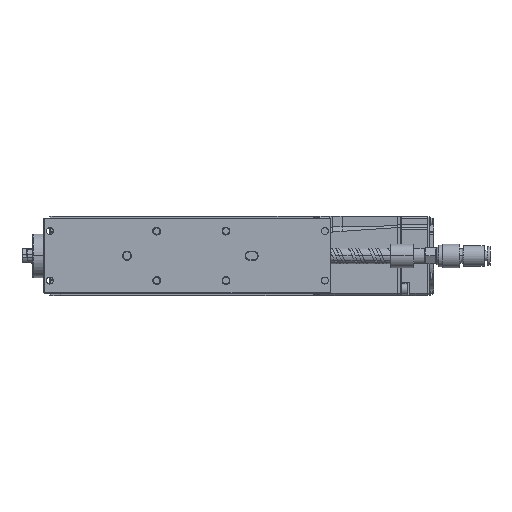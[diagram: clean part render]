
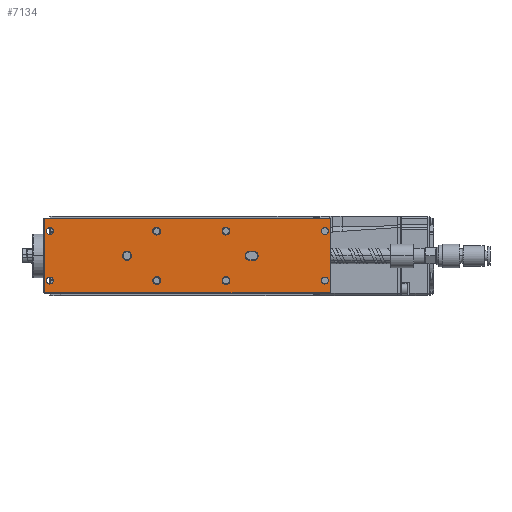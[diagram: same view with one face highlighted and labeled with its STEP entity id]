
A CAD part, top view. The second image highlights one B-rep face of the part: STEP entity #7134.
In plain terms, the highlighted planar face has unit normal (0, 0, 1).
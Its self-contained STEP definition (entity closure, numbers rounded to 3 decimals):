
#2447=CARTESIAN_POINT('',(142.,12.5,0.));
#2448=DIRECTION('',(0.,0.,1.));
#2449=DIRECTION('',(1.,0.,0.));
#2450=AXIS2_PLACEMENT_3D('',#2447,#2448,#2449);
#2455=CARTESIAN_POINT('',(142.,12.5,0.));
#2456=DIRECTION('',(0.,0.,1.));
#2457=DIRECTION('',(-1.,0.,0.));
#2458=AXIS2_PLACEMENT_3D('',#2455,#2456,#2457);
#2463=CARTESIAN_POINT('',(3.,12.5,0.));
#2464=DIRECTION('',(0.,0.,1.));
#2465=DIRECTION('',(1.,0.,0.));
#2466=AXIS2_PLACEMENT_3D('',#2463,#2464,#2465);
#2471=CARTESIAN_POINT('',(3.,12.5,0.));
#2472=DIRECTION('',(0.,0.,1.));
#2473=DIRECTION('',(-1.,0.,0.));
#2474=AXIS2_PLACEMENT_3D('',#2471,#2472,#2473);
#2479=CARTESIAN_POINT('',(142.,-12.5,0.));
#2480=DIRECTION('',(0.,0.,1.));
#2481=DIRECTION('',(1.,0.,0.));
#2482=AXIS2_PLACEMENT_3D('',#2479,#2480,#2481);
#2487=CARTESIAN_POINT('',(142.,-12.5,0.));
#2488=DIRECTION('',(0.,0.,1.));
#2489=DIRECTION('',(-1.,0.,0.));
#2490=AXIS2_PLACEMENT_3D('',#2487,#2488,#2489);
#2495=CARTESIAN_POINT('',(3.,-12.5,0.));
#2496=DIRECTION('',(0.,0.,1.));
#2497=DIRECTION('',(1.,0.,0.));
#2498=AXIS2_PLACEMENT_3D('',#2495,#2496,#2497);
#2503=CARTESIAN_POINT('',(3.,-12.5,0.));
#2504=DIRECTION('',(0.,0.,1.));
#2505=DIRECTION('',(-1.,0.,0.));
#2506=AXIS2_PLACEMENT_3D('',#2503,#2504,#2505);
#2511=CARTESIAN_POINT('',(92.,12.5,0.));
#2512=DIRECTION('',(0.,0.,1.));
#2513=DIRECTION('',(-1.,0.,0.));
#2514=AXIS2_PLACEMENT_3D('',#2511,#2512,#2513);
#2519=CARTESIAN_POINT('',(92.,12.5,0.));
#2520=DIRECTION('',(0.,0.,1.));
#2521=DIRECTION('',(1.,0.,0.));
#2522=AXIS2_PLACEMENT_3D('',#2519,#2520,#2521);
#2527=CARTESIAN_POINT('',(92.,-12.5,0.));
#2528=DIRECTION('',(0.,0.,1.));
#2529=DIRECTION('',(-1.,0.,0.));
#2530=AXIS2_PLACEMENT_3D('',#2527,#2528,#2529);
#2535=CARTESIAN_POINT('',(92.,-12.5,0.));
#2536=DIRECTION('',(0.,0.,1.));
#2537=DIRECTION('',(1.,0.,0.));
#2538=AXIS2_PLACEMENT_3D('',#2535,#2536,#2537);
#2543=CARTESIAN_POINT('',(57.,12.5,0.));
#2544=DIRECTION('',(0.,0.,1.));
#2545=DIRECTION('',(-1.,0.,0.));
#2546=AXIS2_PLACEMENT_3D('',#2543,#2544,#2545);
#2551=CARTESIAN_POINT('',(57.,12.5,0.));
#2552=DIRECTION('',(0.,0.,1.));
#2553=DIRECTION('',(1.,0.,0.));
#2554=AXIS2_PLACEMENT_3D('',#2551,#2552,#2553);
#2559=CARTESIAN_POINT('',(57.,-12.5,0.));
#2560=DIRECTION('',(0.,0.,1.));
#2561=DIRECTION('',(-1.,0.,0.));
#2562=AXIS2_PLACEMENT_3D('',#2559,#2560,#2561);
#2567=CARTESIAN_POINT('',(57.,-12.5,0.));
#2568=DIRECTION('',(0.,0.,1.));
#2569=DIRECTION('',(1.,0.,0.));
#2570=AXIS2_PLACEMENT_3D('',#2567,#2568,#2569);
#2575=DIRECTION('',(-1.,0.,0.));
#2576=VECTOR('',#2575,144.4);
#2577=CARTESIAN_POINT('',(144.7,-18.7,0.));
#2578=LINE('',#2577,#2576);
#2582=DIRECTION('',(0.,-1.,0.));
#2583=VECTOR('',#2582,37.4);
#2584=CARTESIAN_POINT('',(0.3,18.7,0.));
#2585=LINE('',#2584,#2583);
#2589=DIRECTION('',(1.,0.,0.));
#2590=VECTOR('',#2589,144.4);
#2591=CARTESIAN_POINT('',(0.3,18.7,0.));
#2592=LINE('',#2591,#2590);
#2596=DIRECTION('',(0.,-1.,0.));
#2597=VECTOR('',#2596,37.4);
#2598=CARTESIAN_POINT('',(144.7,18.7,0.));
#2599=LINE('',#2598,#2597);
#2603=DIRECTION('',(1.,0.,0.));
#2604=VECTOR('',#2603,2.);
#2605=CARTESIAN_POINT('',(104.,2.3,
0.));
#2606=LINE('',#2605,#2604);
#2610=CARTESIAN_POINT('',(104.,0.,0.));
#2611=DIRECTION('',(0.,0.,-1.));
#2612=DIRECTION('',(0.,-1.,0.));
#2613=AXIS2_PLACEMENT_3D('',#2610,#2611,#2612);
#2618=DIRECTION('',(-1.,0.,0.));
#2619=VECTOR('',#2618,2.);
#2620=CARTESIAN_POINT('',(106.,-2.3,
0.));
#2621=LINE('',#2620,#2619);
#2625=CARTESIAN_POINT('',(106.,0.,0.));
#2626=DIRECTION('',(0.,0.,-1.));
#2627=DIRECTION('',(0.,1.,0.));
#2628=AXIS2_PLACEMENT_3D('',#2625,#2626,#2627);
#2633=CARTESIAN_POINT('',(42.,0.,0.));
#2634=DIRECTION('',(0.,0.,-1.));
#2635=DIRECTION('',(1.,0.,0.));
#2636=AXIS2_PLACEMENT_3D('',#2633,#2634,#2635);
#2641=CARTESIAN_POINT('',(42.,0.,0.));
#2642=DIRECTION('',(0.,0.,-1.));
#2643=DIRECTION('',(-1.,0.,0.));
#2644=AXIS2_PLACEMENT_3D('',#2641,#2642,#2643);
#4307=CARTESIAN_POINT('',(143.75,12.5,0.));
#4308=CARTESIAN_POINT('',(140.25,12.5,0.));
#4309=VERTEX_POINT('',#4307);
#4310=VERTEX_POINT('',#4308);
#4311=CARTESIAN_POINT('',(4.75,12.5,0.));
#4312=CARTESIAN_POINT('',(1.25,12.5,0.));
#4313=VERTEX_POINT('',#4311);
#4314=VERTEX_POINT('',#4312);
#4315=CARTESIAN_POINT('',(143.75,-12.5,0.));
#4316=CARTESIAN_POINT('',(140.25,-12.5,0.));
#4317=VERTEX_POINT('',#4315);
#4318=VERTEX_POINT('',#4316);
#4319=CARTESIAN_POINT('',(4.75,-12.5,0.));
#4320=CARTESIAN_POINT('',(1.25,-12.5,0.));
#4321=VERTEX_POINT('',#4319);
#4322=VERTEX_POINT('',#4320);
#4351=CARTESIAN_POINT('',(90.35,12.5,0.));
#4352=CARTESIAN_POINT('',(93.65,12.5,0.));
#4353=VERTEX_POINT('',#4351);
#4354=VERTEX_POINT('',#4352);
#4355=CARTESIAN_POINT('',(90.35,-12.5,0.));
#4356=CARTESIAN_POINT('',(93.65,-12.5,0.));
#4357=VERTEX_POINT('',#4355);
#4358=VERTEX_POINT('',#4356);
#4359=CARTESIAN_POINT('',(55.35,12.5,0.));
#4360=CARTESIAN_POINT('',(58.65,12.5,0.));
#4361=VERTEX_POINT('',#4359);
#4362=VERTEX_POINT('',#4360);
#4363=CARTESIAN_POINT('',(55.35,-12.5,0.));
#4364=CARTESIAN_POINT('',(58.65,-12.5,0.));
#4365=VERTEX_POINT('',#4363);
#4366=VERTEX_POINT('',#4364);
#4630=CARTESIAN_POINT('',(144.7,-18.7,0.));
#4631=CARTESIAN_POINT('',(0.3,-18.7,0.));
#4632=VERTEX_POINT('',#4630);
#4633=VERTEX_POINT('',#4631);
#4718=CARTESIAN_POINT('',(144.7,18.7,0.));
#4719=VERTEX_POINT('',#4718);
#4720=CARTESIAN_POINT('',(0.3,18.7,0.));
#4721=VERTEX_POINT('',#4720);
#4846=CARTESIAN_POINT('',(104.,2.3,
0.));
#4847=CARTESIAN_POINT('',(106.,2.3,
0.));
#4848=VERTEX_POINT('',#4846);
#4849=VERTEX_POINT('',#4847);
#4854=CARTESIAN_POINT('',(106.,-2.3,0.));
#4855=VERTEX_POINT('',#4854);
#4858=CARTESIAN_POINT('',(104.,-2.3,
0.));
#4859=VERTEX_POINT('',#4858);
#4862=CARTESIAN_POINT('',(44.3,0.,0.));
#4863=CARTESIAN_POINT('',(39.7,0.,0.));
#4864=VERTEX_POINT('',#4862);
#4865=VERTEX_POINT('',#4863);
#7057=CARTESIAN_POINT('',(0.,-19.,0.));
#7058=DIRECTION('',(0.,0.,1.));
#7059=DIRECTION('',(1.,0.,0.));
#7060=AXIS2_PLACEMENT_3D('',#7057,#7058,#7059);
#7061=PLANE('',#7060);
#7063=ORIENTED_EDGE('',*,*,#7062,.T.);
#7065=ORIENTED_EDGE('',*,*,#7064,.F.);
#7067=ORIENTED_EDGE('',*,*,#7066,.T.);
#7069=ORIENTED_EDGE('',*,*,#7068,.T.);
#7070=EDGE_LOOP('',(#7063,#7065,#7067,#7069));
#7071=FACE_OUTER_BOUND('',#7070,.F.);
#7073=ORIENTED_EDGE('',*,*,#7072,.T.);
#7075=ORIENTED_EDGE('',*,*,#7074,.T.);
#7076=EDGE_LOOP('',(#7073,#7075));
#7077=FACE_BOUND('',#7076,.F.);
#7079=ORIENTED_EDGE('',*,*,#7078,.T.);
#7081=ORIENTED_EDGE('',*,*,#7080,.T.);
#7082=EDGE_LOOP('',(#7079,#7081));
#7083=FACE_BOUND('',#7082,.F.);
#7085=ORIENTED_EDGE('',*,*,#7084,.T.);
#7087=ORIENTED_EDGE('',*,*,#7086,.T.);
#7088=EDGE_LOOP('',(#7085,#7087));
#7089=FACE_BOUND('',#7088,.F.);
#7090=ORIENTED_EDGE('',*,*,#7037,.T.);
#7091=ORIENTED_EDGE('',*,*,#7051,.T.);
#7092=EDGE_LOOP('',(#7090,#7091));
#7093=FACE_BOUND('',#7092,.F.);
#7095=ORIENTED_EDGE('',*,*,#7094,.T.);
#7097=ORIENTED_EDGE('',*,*,#7096,.T.);
#7098=EDGE_LOOP('',(#7095,#7097));
#7099=FACE_BOUND('',#7098,.F.);
#7101=ORIENTED_EDGE('',*,*,#7100,.T.);
#7103=ORIENTED_EDGE('',*,*,#7102,.T.);
#7104=EDGE_LOOP('',(#7101,#7103));
#7105=FACE_BOUND('',#7104,.F.);
#7107=ORIENTED_EDGE('',*,*,#7106,.T.);
#7109=ORIENTED_EDGE('',*,*,#7108,.T.);
#7110=EDGE_LOOP('',(#7107,#7109));
#7111=FACE_BOUND('',#7110,.F.);
#7113=ORIENTED_EDGE('',*,*,#7112,.T.);
#7115=ORIENTED_EDGE('',*,*,#7114,.T.);
#7116=EDGE_LOOP('',(#7113,#7115));
#7117=FACE_BOUND('',#7116,.F.);
#7119=ORIENTED_EDGE('',*,*,#7118,.F.);
#7121=ORIENTED_EDGE('',*,*,#7120,.F.);
#7123=ORIENTED_EDGE('',*,*,#7122,.F.);
#7125=ORIENTED_EDGE('',*,*,#7124,.F.);
#7126=EDGE_LOOP('',(#7119,#7121,#7123,#7125));
#7127=FACE_BOUND('',#7126,.F.);
#7129=ORIENTED_EDGE('',*,*,#7128,.F.);
#7131=ORIENTED_EDGE('',*,*,#7130,.F.);
#7132=EDGE_LOOP('',(#7129,#7131));
#7133=FACE_BOUND('',#7132,.F.);
#2451=CIRCLE('',#2450,1.75);
#2459=CIRCLE('',#2458,1.75);
#2467=CIRCLE('',#2466,1.75);
#2475=CIRCLE('',#2474,1.75);
#2483=CIRCLE('',#2482,1.75);
#2491=CIRCLE('',#2490,1.75);
#2499=CIRCLE('',#2498,1.75);
#2507=CIRCLE('',#2506,1.75);
#2515=CIRCLE('',#2514,1.65);
#2523=CIRCLE('',#2522,1.65);
#2531=CIRCLE('',#2530,1.65);
#2539=CIRCLE('',#2538,1.65);
#2547=CIRCLE('',#2546,1.65);
#2555=CIRCLE('',#2554,1.65);
#2563=CIRCLE('',#2562,1.65);
#2571=CIRCLE('',#2570,1.65);
#2614=CIRCLE('',#2613,2.3);
#2629=CIRCLE('',#2628,2.3);
#2637=CIRCLE('',#2636,2.3);
#2645=CIRCLE('',#2644,2.3);
#7037=EDGE_CURVE('',#4353,#4354,#2515,.T.);
#7051=EDGE_CURVE('',#4354,#4353,#2523,.T.);
#7062=EDGE_CURVE('',#4632,#4633,#2578,.T.);
#7064=EDGE_CURVE('',#4721,#4633,#2585,.T.);
#7066=EDGE_CURVE('',#4721,#4719,#2592,.T.);
#7068=EDGE_CURVE('',#4719,#4632,#2599,.T.);
#7072=EDGE_CURVE('',#4313,#4314,#2467,.T.);
#7074=EDGE_CURVE('',#4314,#4313,#2475,.T.);
#7078=EDGE_CURVE('',#4317,#4318,#2483,.T.);
#7080=EDGE_CURVE('',#4318,#4317,#2491,.T.);
#7084=EDGE_CURVE('',#4321,#4322,#2499,.T.);
#7086=EDGE_CURVE('',#4322,#4321,#2507,.T.);
#7094=EDGE_CURVE('',#4357,#4358,#2531,.T.);
#7096=EDGE_CURVE('',#4358,#4357,#2539,.T.);
#7100=EDGE_CURVE('',#4361,#4362,#2547,.T.);
#7102=EDGE_CURVE('',#4362,#4361,#2555,.T.);
#7106=EDGE_CURVE('',#4365,#4366,#2563,.T.);
#7108=EDGE_CURVE('',#4366,#4365,#2571,.T.);
#7112=EDGE_CURVE('',#4309,#4310,#2451,.T.);
#7114=EDGE_CURVE('',#4310,#4309,#2459,.T.);
#7118=EDGE_CURVE('',#4848,#4849,#2606,.T.);
#7120=EDGE_CURVE('',#4859,#4848,#2614,.T.);
#7122=EDGE_CURVE('',#4855,#4859,#2621,.T.);
#7124=EDGE_CURVE('',#4849,#4855,#2629,.T.);
#7128=EDGE_CURVE('',#4864,#4865,#2637,.T.);
#7130=EDGE_CURVE('',#4865,#4864,#2645,.T.);
#7134=ADVANCED_FACE('',(#7071,#7077,#7083,#7089,#7093,#7099,#7105,#7111,#7117,
#7127,#7133),#7061,.T.);
